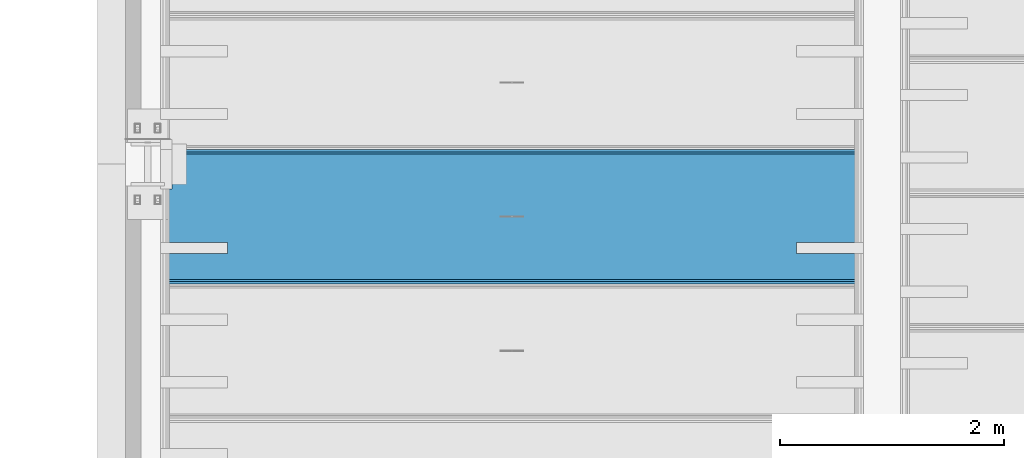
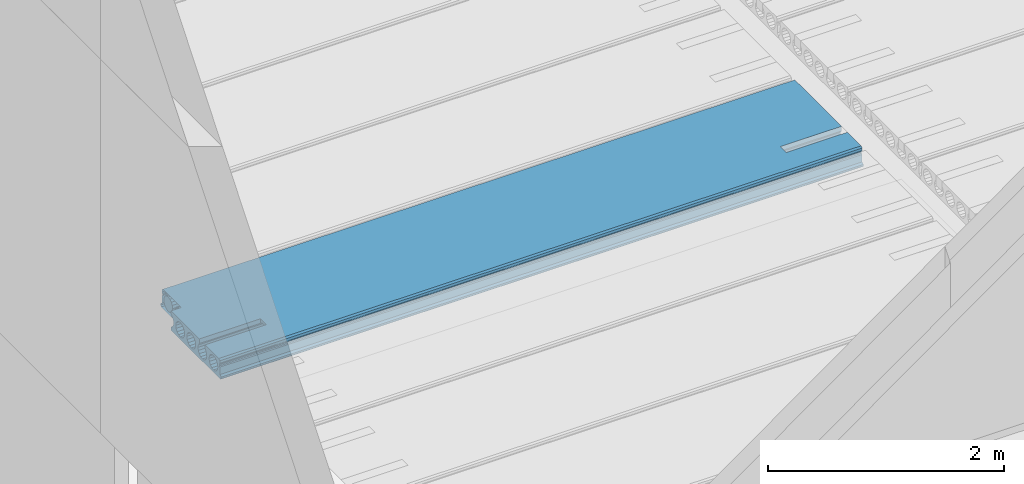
# One storey, part 127 of 230: 1 beam.
"""IFC4X3_ADD2 building model written with IfcOpenShell, lengths in millimetres."""

from ifc_helpers import new_model, si_unit, direction, origin_with_axes, place, context, subcontext, project, spatial, polygons, element, save


model = new_model("IFC4X3_ADD2")

# Units and contexts
model_context = context("Model", 3, precision=1e-05, world=origin_with_axes(), true_north=direction((0.0, 1.0)))
body_context = subcontext(model_context, "Body", "Model", "MODEL_VIEW")
ifc_project = project(units=[si_unit("LENGTHUNIT", "METRE", prefix="MILLI"), si_unit("AREAUNIT", "SQUARE_METRE"), si_unit("VOLUMEUNIT", "CUBIC_METRE"), si_unit("PLANEANGLEUNIT", "RADIAN"), si_unit("TIMEUNIT", "SECOND"), si_unit("MASSUNIT", "GRAM")], contexts=[model_context])

# Site, building, storey
site_placement = place(None, origin_with_axes())
site = spatial("IfcSite", under=ifc_project, at=site_placement, Name="Site", CompositionType="ELEMENT")
building_placement = place(site_placement, origin_with_axes())
building = spatial("IfcBuilding", under=site, at=building_placement, Name="IFC Building Story")
storey_placement = place(building_placement, origin_with_axes())
storey = spatial("IfcBuildingStorey", under=building, at=storey_placement, Name="ETAGE 00 (0)", Elevation=0.0)

# Beam
beam_placement = place(storey_placement, origin_with_axes())
element("IfcBeam", 1, at=beam_placement, inside=storey, Name="HOLLOWCORE SLAB", ObjectType="EB_SP200", context=body_context, shape_type="Tessellation", body=[
    polygons([(33516.189, 20561.00091552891, 3999.9999909), (33516.189, 20550.0009155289, 4012.999990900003), (33516.189, 20550.0009155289, 4029.9999909), (33516.189, 20570.0009155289, 4044.999990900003), (33516.189, 20571.45092773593, 4119.9999909), (33516.189, 20578.98353700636, 4128.67613934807), (33516.189, 20581.84084554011, 4139.805000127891), (33516.189, 20579.41955194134, 4151.036789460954), (33516.189, 20572.23089599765, 4159.9999909), (33516.189, 20572.71221169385, 4185.002769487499), (33516.189, 20588.0009155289, 4199.9999909), (33516.189, 20820.0009155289, 4199.9999909), (33516.189, 20820.0009155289, 4155.806158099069), (33516.189, 20815.32146033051, 4152.679446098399), (33516.189, 20799.17189035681, 4128.509906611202), (33516.189, 20793.5009155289, 4099.9999909), (33516.189, 20799.17189035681, 4071.490075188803), (33516.189, 20815.3214603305, 4047.320535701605), (33516.189, 20839.4909998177, 4031.170965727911), (33516.189, 20868.0009155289, 4025.499990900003), (33516.189, 20896.5108312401, 4031.170965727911), (33516.189, 20920.6803707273, 4047.320535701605), (33516.189, 20936.82994070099, 4071.490075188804), (33516.189, 20942.5009155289, 4099.9999909), (33516.189, 20936.82994070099, 4128.509906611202), (33516.189, 20920.6803707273, 4152.6794460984), (33516.189, 20920.0009155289, 4153.133443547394), (33516.189, 20920.0009155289, 4199.9999909), (33516.189, 21400.0009155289, 4199.9999909), (33516.189, 21400.0009155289, 4166.497016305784), (33516.189, 21379.32146033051, 4152.679446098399), (33516.189, 21363.17189035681, 4128.509906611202), (33516.189, 21357.5009155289, 4099.9999909), (33516.189, 21363.17189035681, 4071.490075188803), (33516.189, 21379.3214603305, 4047.320535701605), (33516.189, 21400.0009155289, 4033.502965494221), (33516.189, 21400.0009155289, 3999.9999909), (33516.189, 21296.6803707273, 4152.6794460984), (33516.189, 21272.5108312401, 4168.829016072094), (33516.189, 21244.0009155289, 4174.499990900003), (33516.189, 21215.4909998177, 4168.829016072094), (33516.189, 21191.32146033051, 4152.679446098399), (33516.189, 21175.17189035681, 4128.509906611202), (33516.189, 21169.5009155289, 4099.9999909), (33516.189, 21175.1718903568, 4071.490075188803), (33516.189, 21191.32146033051, 4047.320535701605), (33516.189, 21215.4909998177, 4031.170965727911), (33516.189, 21244.0009155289, 4025.499990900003), (33516.189, 21272.5108312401, 4031.170965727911), (33516.189, 21296.6803707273, 4047.320535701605), (33516.189, 21312.82994070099, 4071.490075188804), (33516.189, 21318.5009155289, 4099.9999909), (33516.189, 21312.82994070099, 4128.509906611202), (33516.189, 21108.6803707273, 4152.6794460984), (33516.189, 21084.5108312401, 4168.829016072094), (33516.189, 21056.0009155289, 4174.499990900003), (33516.189, 21027.49099981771, 4168.829016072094), (33516.189, 21003.3214603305, 4152.679446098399), (33516.189, 20987.17189035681, 4128.509906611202), (33516.189, 20981.5009155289, 4099.9999909), (33516.189, 20987.17189035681, 4071.490075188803), (33516.189, 21003.3214603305, 4047.320535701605), (33516.189, 21027.4909998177, 4031.170965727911), (33516.189, 21056.0009155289, 4025.499990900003), (33516.189, 21084.51083124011, 4031.170965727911), (33516.189, 21108.6803707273, 4047.320535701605), (33516.189, 21124.82994070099, 4071.490075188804), (33516.189, 21130.5009155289, 4099.9999909), (33516.189, 21124.829940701, 4128.509906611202), (33516.189, 20732.6803707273, 4152.6794460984), (33516.189, 20708.5108312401, 4168.829016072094), (33516.189, 20680.0009155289, 4174.499990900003), (33516.189, 20651.49099981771, 4168.829016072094), (33516.189, 20627.3214603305, 4152.679446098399), (33516.189, 20611.17189035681, 4128.509906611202), (33516.189, 20605.5009155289, 4099.9999909), (33516.189, 20611.17189035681, 4071.490075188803), (33516.189, 20627.3214603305, 4047.320535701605), (33516.189, 20651.4909998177, 4031.170965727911), (33516.189, 20680.0009155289, 4025.499990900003), (33516.189, 20708.5108312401, 4031.170965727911), (33516.189, 20732.68037072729, 4047.320535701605), (33516.189, 20748.82994070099, 4071.490075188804), (33516.189, 20754.5009155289, 4099.9999909), (33516.189, 20748.82994070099, 4128.509906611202), (39801.189, 21739.0009155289, 3999.9999909), (39801.189, 21750.0009155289, 4012.999990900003), (39801.189, 21750.0009155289, 4029.9999909), (39801.189, 21730.0009155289, 4044.999990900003), (39801.189, 21728.55090332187, 4119.9999909), (39801.189, 21721.01829405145, 4128.676139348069), (39801.189, 21718.16098551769, 4139.805000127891), (39801.189, 21720.58227911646, 4151.036789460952), (39801.189, 21727.77093506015, 4159.9999909), (39801.189, 21727.28961936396, 4185.002769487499), (39801.189, 21712.0009155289, 4199.9999909), (39801.189, 20920.0009155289, 4199.9999909), (39801.189, 20920.0009155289, 4153.133443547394), (39801.189, 20920.6803707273, 4152.6794460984), (39801.189, 20936.82994070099, 4128.509906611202), (39801.189, 20942.5009155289, 4099.9999909), (39801.189, 20936.82994070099, 4071.490075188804), (39801.189, 20920.6803707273, 4047.320535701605), (39801.189, 20896.5108312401, 4031.170965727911), (39801.189, 20868.0009155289, 4025.499990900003), (39801.189, 20839.4909998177, 4031.170965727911), (39801.189, 20815.32146033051, 4047.320535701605), (39801.189, 20799.17189035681, 4071.490075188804), (39801.189, 20793.5009155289, 4099.9999909), (39801.189, 20799.17189035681, 4128.509906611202), (39801.189, 20815.32146033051, 4152.6794460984), (39801.189, 20820.0009155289, 4155.806158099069), (39801.189, 20820.0009155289, 4199.9999909), (39801.189, 20588.0009155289, 4199.9999909), (39801.189, 20572.71221169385, 4185.002769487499), (39801.189, 20572.23089599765, 4159.9999909), (39801.189, 20579.41955194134, 4151.036789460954), (39801.189, 20581.84084554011, 4139.805000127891), (39801.189, 20578.98353700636, 4128.67613934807), (39801.189, 20571.45092773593, 4119.9999909), (39801.189, 20570.0009155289, 4044.999990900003), (39801.189, 20550.0009155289, 4029.9999909), (39801.189, 20550.0009155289, 4012.999990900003), (39801.189, 20561.0009155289, 3999.9999909), (39801.189, 21672.6803707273, 4152.6794460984), (39801.189, 21688.82994070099, 4128.509906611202), (39801.189, 21694.5009155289, 4099.9999909), (39801.189, 21688.82994070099, 4071.490075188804), (39801.189, 21672.6803707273, 4047.320535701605), (39801.189, 21648.5108312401, 4031.170965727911), (39801.189, 21620.0009155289, 4025.499990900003), (39801.189, 21591.4909998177, 4031.170965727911), (39801.189, 21567.3214603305, 4047.320535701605), (39801.189, 21551.17189035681, 4071.490075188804), (39801.189, 21545.5009155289, 4099.9999909), (39801.189, 21551.17189035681, 4128.509906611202), (39801.189, 21567.3214603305, 4152.6794460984), (39801.189, 21591.4909998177, 4168.829016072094), (39801.189, 21620.0009155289, 4174.499990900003), (39801.189, 21648.5108312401, 4168.829016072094), (39801.189, 21484.6803707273, 4152.6794460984), (39801.189, 21500.82994070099, 4128.509906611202), (39801.189, 21506.5009155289, 4099.9999909), (39801.189, 21500.82994070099, 4071.490075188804), (39801.189, 21484.6803707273, 4047.320535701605), (39801.189, 21460.5108312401, 4031.170965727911), (39801.189, 21432.0009155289, 4025.499990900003), (39801.189, 21403.4909998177, 4031.170965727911), (39801.189, 21379.3214603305, 4047.320535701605), (39801.189, 21363.17189035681, 4071.490075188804), (39801.189, 21357.5009155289, 4099.9999909), (39801.189, 21363.17189035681, 4128.509906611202), (39801.189, 21379.3214603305, 4152.6794460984), (39801.189, 21403.4909998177, 4168.829016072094), (39801.189, 21432.0009155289, 4174.499990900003), (39801.189, 21460.5108312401, 4168.829016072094), (39801.189, 21296.6803707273, 4152.6794460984), (39801.189, 21312.82994070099, 4128.509906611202), (39801.189, 21318.5009155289, 4099.9999909), (39801.189, 21312.82994070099, 4071.490075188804), (39801.189, 21296.6803707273, 4047.320535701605), (39801.189, 21272.5108312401, 4031.170965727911), (39801.189, 21244.0009155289, 4025.499990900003), (39801.189, 21215.4909998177, 4031.170965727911), (39801.189, 21191.3214603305, 4047.320535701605), (39801.189, 21175.17189035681, 4071.490075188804), (39801.189, 21169.5009155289, 4099.9999909), (39801.189, 21175.17189035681, 4128.509906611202), (39801.189, 21191.3214603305, 4152.6794460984), (39801.189, 21215.4909998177, 4168.829016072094), (39801.189, 21244.0009155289, 4174.499990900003), (39801.189, 21272.5108312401, 4168.829016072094), (39801.189, 21108.6803707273, 4152.6794460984), (39801.189, 21124.82994070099, 4128.509906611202), (39801.189, 21130.5009155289, 4099.9999909), (39801.189, 21124.82994070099, 4071.490075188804), (39801.189, 21108.6803707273, 4047.320535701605), (39801.189, 21084.5108312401, 4031.170965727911), (39801.189, 21056.0009155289, 4025.499990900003), (39801.189, 21027.4909998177, 4031.170965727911), (39801.189, 21003.3214603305, 4047.320535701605), (39801.189, 20987.17189035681, 4071.490075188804), (39801.189, 20981.5009155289, 4099.9999909), (39801.189, 20987.17189035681, 4128.509906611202), (39801.189, 21003.3214603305, 4152.6794460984), (39801.189, 21027.4909998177, 4168.829016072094), (39801.189, 21056.0009155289, 4174.499990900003), (39801.189, 21084.5108312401, 4168.829016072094), (39801.189, 20732.6803707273, 4152.6794460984), (39801.189, 20748.82994070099, 4128.509906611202), (39801.189, 20754.5009155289, 4099.9999909), (39801.189, 20748.82994070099, 4071.490075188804), (39801.189, 20732.6803707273, 4047.320535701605), (39801.189, 20708.5108312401, 4031.170965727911), (39801.189, 20680.0009155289, 4025.499990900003), (39801.189, 20651.4909998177, 4031.170965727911), (39801.189, 20627.3214603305, 4047.320535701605), (39801.189, 20611.17189035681, 4071.490075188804), (39801.189, 20605.5009155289, 4099.9999909), (39801.189, 20611.17189035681, 4128.509906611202), (39801.189, 20627.3214603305, 4152.6794460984), (39801.189, 20651.4909998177, 4168.829016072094), (39801.189, 20680.0009155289, 4174.499990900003), (39801.189, 20708.5108312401, 4168.829016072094), (33616.189, 21400.0009155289, 3999.9999909), (33616.189, 21739.0009155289, 3999.9999909), (39201.189, 20820.0009155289, 4199.9999909), (39201.189, 20920.0009155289, 4199.9999909), (33616.189, 21712.0009155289, 4199.9999909), (33616.189, 21400.0009155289, 4199.9999909), (34116.189, 20920.0009155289, 4199.9999909), (34116.189, 20820.0009155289, 4199.9999909), (33616.189, 21727.28961936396, 4185.002769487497), (33616.189, 21727.77093506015, 4159.9999909), (33616.189, 21720.58227911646, 4151.036789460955), (33616.189, 21718.16098551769, 4139.805000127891), (33616.189, 21721.01829405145, 4128.67613934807), (33616.189, 21728.55090332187, 4119.9999909), (33616.189, 21730.0009155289, 4044.999990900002), (33616.189, 21750.0009155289, 4029.9999909), (33616.189, 21750.0009155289, 4012.999990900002), (33616.189, 21648.5108312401, 4168.829016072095), (33616.189, 21672.6803707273, 4152.679446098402), (33616.189, 21620.0009155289, 4174.499990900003), (33616.189, 21591.4909998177, 4168.829016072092), (33616.189, 21567.32146033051, 4152.679446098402), (33616.189, 21551.17189035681, 4128.509906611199), (33616.189, 21545.5009155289, 4099.9999909), (33616.189, 21551.17189035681, 4071.490075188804), (33616.189, 21567.3214603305, 4047.320535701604), (33616.189, 21591.49099981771, 4031.170965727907), (33616.189, 21620.0009155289, 4025.499990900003), (33616.189, 21648.5108312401, 4031.170965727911), (33616.189, 21672.6803707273, 4047.320535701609), (33616.189, 21688.82994070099, 4071.490075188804), (33616.189, 21694.5009155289, 4099.9999909), (33616.189, 21688.82994070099, 4128.509906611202), (33616.189, 21460.5108312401, 4168.829016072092), (33616.189, 21484.6803707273, 4152.679446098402), (33616.189, 21432.0009155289, 4174.499990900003), (33616.189, 21403.4909998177, 4168.829016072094), (33616.189, 21400.0009155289, 4166.497016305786), (33616.189, 21403.49099981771, 4031.170965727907), (33616.189, 21400.0009155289, 4033.50296549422), (33616.189, 21432.0009155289, 4025.499990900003), (33616.189, 21460.51083124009, 4031.17096572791), (33616.189, 21484.6803707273, 4047.32053570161), (33616.189, 21500.82994070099, 4071.490075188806), (33616.189, 21506.5009155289, 4099.9999909), (33616.189, 21500.82994070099, 4128.509906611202), (39201.189, 20920.0009155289, 4153.133443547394), (39201.189, 20896.5108312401, 4168.829016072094), (34116.189, 20896.5108312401, 4168.829016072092), (34116.189, 20920.0009155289, 4153.133443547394), (39201.189, 20868.0009155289, 4174.499990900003), (34116.189, 20868.0009155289, 4174.499990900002), (39201.189, 20839.49099981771, 4168.829016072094), (34116.189, 20839.49099981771, 4168.829016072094), (34116.189, 20820.0009155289, 4155.806158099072), (39201.189, 20820.0009155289, 4155.806158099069), (39201.189, 20920.0009155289, 4199.999996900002), (39201.189, 20820.0009155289, 4199.999996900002), (34116.189, 20820.0009155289, 4199.999996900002), (34116.189, 20920.0009155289, 4199.999996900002)], [[[26, 27, 28]], [[57, 58, 25]], [[57, 25, 26]], [[57, 26, 28]], [[28, 56, 57]], [[56, 28, 29]], [[29, 55, 56]], [[29, 54, 55]], [[59, 60, 24]], [[59, 24, 25]], [[25, 58, 59]], [[61, 62, 23]], [[23, 24, 60]], [[23, 60, 61]], [[62, 22, 23]], [[41, 42, 69]], [[41, 69, 54]], [[54, 40, 41]], [[40, 54, 29]], [[29, 39, 40]], [[29, 38, 39]], [[43, 44, 68]], [[43, 68, 69]], [[69, 42, 43]], [[45, 46, 67]], [[67, 68, 44]], [[67, 44, 45]], [[53, 38, 29]], [[53, 29, 30]], [[53, 30, 31]], [[32, 33, 52]], [[32, 52, 53]], [[53, 31, 32]], [[34, 35, 51]], [[51, 52, 33]], [[51, 33, 34]], [[35, 36, 37]], [[35, 37, 50]], [[35, 50, 51]], [[37, 49, 50]], [[37, 48, 49]], [[37, 66, 48]], [[66, 47, 48]], [[66, 67, 46]], [[66, 46, 47]], [[37, 65, 66]], [[37, 64, 65]], [[37, 21, 64]], [[21, 63, 64]], [[21, 22, 62]], [[21, 62, 63]], [[37, 20, 21]], [[37, 1, 20]], [[1, 19, 20]], [[1, 18, 19]], [[8, 9, 10]], [[8, 10, 11]], [[74, 75, 7]], [[74, 7, 8]], [[8, 11, 73]], [[8, 73, 74]], [[11, 72, 73]], [[72, 11, 12]], [[12, 71, 72]], [[12, 70, 71]], [[75, 6, 7]], [[77, 78, 4]], [[4, 5, 76]], [[4, 76, 77]], [[5, 6, 75]], [[5, 75, 76]], [[81, 82, 17]], [[81, 17, 18]], [[18, 80, 81]], [[18, 1, 80]], [[1, 79, 80]], [[1, 4, 78]], [[1, 78, 79]], [[1, 2, 3]], [[1, 3, 4]], [[83, 84, 16]], [[83, 16, 17]], [[17, 82, 83]], [[85, 70, 15]], [[15, 16, 84]], [[15, 84, 85]], [[70, 12, 14]], [[70, 14, 15]], [[12, 13, 14]], [[121, 122, 123]], [[121, 123, 124]], [[93, 94, 95]], [[93, 95, 96]], [[93, 96, 125]], [[125, 126, 92]], [[125, 92, 93]], [[126, 91, 92]], [[128, 129, 89]], [[89, 90, 127]], [[89, 127, 128]], [[90, 91, 126]], [[90, 126, 127]], [[140, 125, 96]], [[96, 139, 140]], [[96, 138, 139]], [[96, 141, 138]], [[141, 137, 138]], [[141, 136, 137]], [[142, 143, 135]], [[142, 135, 136]], [[136, 141, 142]], [[144, 145, 134]], [[134, 135, 143]], [[134, 143, 144]], [[145, 146, 133]], [[145, 133, 134]], [[146, 132, 133]], [[152, 153, 157]], [[158, 159, 151]], [[158, 151, 152]], [[152, 157, 158]], [[160, 161, 150]], [[150, 151, 159]], [[150, 159, 160]], [[161, 149, 150]], [[168, 169, 173]], [[174, 175, 167]], [[174, 167, 168]], [[168, 173, 174]], [[176, 177, 166]], [[166, 167, 175]], [[166, 175, 176]], [[177, 165, 166]], [[156, 141, 96]], [[96, 155, 156]], [[96, 172, 155]], [[172, 154, 155]], [[172, 157, 153]], [[172, 153, 154]], [[96, 171, 172]], [[96, 188, 171]], [[188, 170, 171]], [[188, 173, 169]], [[188, 169, 170]], [[96, 187, 188]], [[96, 97, 187]], [[97, 186, 187]], [[97, 185, 186]], [[97, 98, 184]], [[97, 184, 185]], [[100, 101, 183]], [[100, 183, 184]], [[184, 99, 100]], [[184, 98, 99]], [[102, 103, 182]], [[182, 183, 101]], [[182, 101, 102]], [[103, 181, 182]], [[111, 112, 113]], [[113, 189, 110]], [[113, 110, 111]], [[190, 191, 109]], [[190, 109, 110]], [[110, 189, 190]], [[192, 193, 108]], [[108, 109, 191]], [[108, 191, 192]], [[199, 200, 119]], [[199, 119, 120]], [[120, 121, 198]], [[120, 198, 199]], [[121, 124, 197]], [[121, 197, 198]], [[124, 196, 197]], [[124, 195, 196]], [[124, 194, 195]], [[124, 107, 194]], [[107, 108, 193]], [[107, 193, 194]], [[124, 106, 107]], [[124, 105, 106]], [[124, 180, 105]], [[180, 104, 105]], [[180, 181, 103]], [[180, 103, 104]], [[124, 179, 180]], [[124, 164, 179]], [[164, 178, 179]], [[164, 165, 177]], [[164, 177, 178]], [[124, 163, 164]], [[124, 148, 163]], [[148, 162, 163]], [[148, 149, 161]], [[148, 161, 162]], [[124, 147, 148]], [[124, 131, 147]], [[131, 132, 146]], [[131, 146, 147]], [[124, 86, 131]], [[86, 130, 131]], [[86, 89, 129]], [[86, 129, 130]], [[86, 87, 88]], [[86, 88, 89]], [[200, 118, 119]], [[204, 189, 113]], [[113, 203, 204]], [[113, 114, 203]], [[114, 202, 203]], [[114, 117, 201]], [[114, 201, 202]], [[117, 118, 200]], [[117, 200, 201]], [[114, 115, 116]], [[114, 116, 117]], [[205, 206, 86]], [[86, 124, 1]], [[86, 1, 205]], [[1, 37, 205]], [[2, 1, 124, 123]], [[3, 2, 123, 122]], [[4, 3, 122, 121]], [[5, 4, 121, 120]], [[6, 5, 120, 119]], [[7, 6, 119, 118]], [[8, 7, 118, 117]], [[9, 8, 117, 116]], [[10, 9, 116, 115]], [[11, 10, 115, 114]], [[208, 97, 96]], [[208, 96, 209]], [[209, 207, 208]], [[210, 29, 28]], [[212, 12, 11]], [[212, 11, 114]], [[114, 211, 212]], [[114, 207, 209]], [[114, 209, 211]], [[210, 28, 211]], [[211, 209, 210]], [[114, 113, 207]], [[96, 95, 213, 209]], [[95, 94, 214, 213]], [[94, 93, 215, 214]], [[93, 92, 216, 215]], [[92, 91, 217, 216]], [[91, 90, 218, 217]], [[90, 89, 219, 218]], [[89, 88, 220, 219]], [[88, 87, 221, 220]], [[87, 86, 206, 221]], [[125, 140, 222, 223]], [[140, 139, 224, 222]], [[139, 138, 225, 224]], [[138, 137, 226, 225]], [[137, 136, 227, 226]], [[136, 135, 228, 227]], [[135, 134, 229, 228]], [[134, 133, 230, 229]], [[133, 132, 231, 230]], [[132, 131, 232, 231]], [[131, 130, 233, 232]], [[130, 129, 234, 233]], [[129, 128, 235, 234]], [[128, 127, 236, 235]], [[127, 126, 237, 236]], [[126, 125, 223, 237]], [[141, 156, 238, 239]], [[156, 155, 240, 238]], [[155, 154, 241, 240]], [[242, 241, 154]], [[154, 153, 31]], [[154, 31, 242]], [[31, 30, 242]], [[32, 31, 153, 152]], [[33, 32, 152, 151]], [[34, 33, 151, 150]], [[35, 34, 150, 149]], [[244, 36, 35]], [[244, 35, 149]], [[244, 149, 148]], [[148, 243, 244]], [[148, 147, 245, 243]], [[147, 146, 246, 245]], [[146, 145, 247, 246]], [[145, 144, 248, 247]], [[144, 143, 249, 248]], [[143, 142, 250, 249]], [[142, 141, 239, 250]], [[39, 38, 157, 172]], [[40, 39, 172, 171]], [[41, 40, 171, 170]], [[42, 41, 170, 169]], [[43, 42, 169, 168]], [[44, 43, 168, 167]], [[45, 44, 167, 166]], [[46, 45, 166, 165]], [[47, 46, 165, 164]], [[48, 47, 164, 163]], [[49, 48, 163, 162]], [[50, 49, 162, 161]], [[51, 50, 161, 160]], [[52, 51, 160, 159]], [[53, 52, 159, 158]], [[38, 53, 158, 157]], [[55, 54, 173, 188]], [[56, 55, 188, 187]], [[57, 56, 187, 186]], [[58, 57, 186, 185]], [[59, 58, 185, 184]], [[60, 59, 184, 183]], [[61, 60, 183, 182]], [[62, 61, 182, 181]], [[63, 62, 181, 180]], [[64, 63, 180, 179]], [[65, 64, 179, 178]], [[66, 65, 178, 177]], [[67, 66, 177, 176]], [[68, 67, 176, 175]], [[69, 68, 175, 174]], [[54, 69, 174, 173]], [[254, 27, 26]], [[254, 26, 251]], [[251, 252, 253]], [[251, 253, 254]], [[26, 99, 251]], [[99, 98, 251]], [[253, 252, 255, 256]], [[256, 255, 257, 258]], [[260, 112, 111]], [[260, 111, 259]], [[259, 258, 257]], [[259, 257, 260]], [[111, 14, 259]], [[14, 13, 259]], [[15, 14, 111, 110]], [[16, 15, 110, 109]], [[17, 16, 109, 108]], [[18, 17, 108, 107]], [[19, 18, 107, 106]], [[20, 19, 106, 105]], [[21, 20, 105, 104]], [[22, 21, 104, 103]], [[23, 22, 103, 102]], [[24, 23, 102, 101]], [[25, 24, 101, 100]], [[26, 25, 100, 99]], [[71, 70, 189, 204]], [[72, 71, 204, 203]], [[73, 72, 203, 202]], [[74, 73, 202, 201]], [[75, 74, 201, 200]], [[76, 75, 200, 199]], [[77, 76, 199, 198]], [[78, 77, 198, 197]], [[79, 78, 197, 196]], [[80, 79, 196, 195]], [[81, 80, 195, 194]], [[82, 81, 194, 193]], [[83, 82, 193, 192]], [[84, 83, 192, 191]], [[85, 84, 191, 190]], [[70, 85, 190, 189]], [[113, 112, 260, 207]], [[98, 97, 261, 251]], [[252, 251, 208]], [[208, 262, 255]], [[208, 255, 252]], [[262, 257, 255]], [[262, 260, 257]], [[28, 27, 254, 211]], [[13, 12, 263, 259]], [[258, 259, 212]], [[212, 256, 258]], [[212, 264, 253]], [[212, 253, 256]], [[264, 254, 253]], [[244, 205, 37, 36]], [[223, 222, 224]], [[223, 224, 225]], [[223, 225, 226]], [[223, 226, 227]], [[223, 227, 228]], [[223, 228, 229]], [[223, 229, 230]], [[223, 230, 231]], [[223, 231, 232]], [[223, 232, 233]], [[223, 233, 234]], [[223, 234, 235]], [[223, 235, 236]], [[223, 236, 237]], [[210, 242, 30, 29]]]),
])

save(model, "model.ifc")
